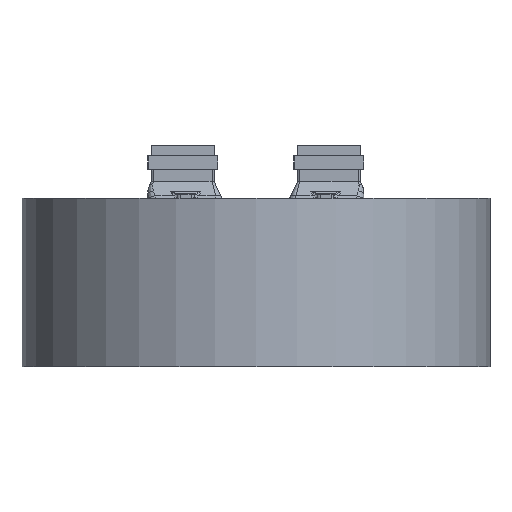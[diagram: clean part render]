
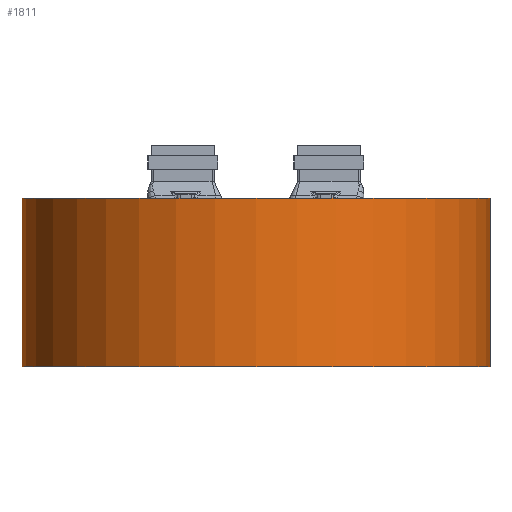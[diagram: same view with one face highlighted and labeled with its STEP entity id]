
A CAD part, front view. The second image highlights one B-rep face of the part: STEP entity #1811.
In plain terms, the highlighted cylindrical face has radius 97 mm (diameter 194 mm), a partial arc.
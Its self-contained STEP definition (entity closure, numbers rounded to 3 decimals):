
#151=CYLINDRICAL_SURFACE('',#12693,97.);
#492=CIRCLE('',#12675,97.);
#499=CIRCLE('',#12684,97.);
#860=LINE('',#15717,#1337);
#861=LINE('',#15719,#1338);
#1337=VECTOR('',#13425,1.);
#1338=VECTOR('',#13426,1.);
#1811=ADVANCED_FACE('',(#3015),#151,.T.);
#3015=FACE_OUTER_BOUND('',#3805,.T.);
#3805=EDGE_LOOP('',(#5745,#5746,#5747,#5748));
#5745=ORIENTED_EDGE('',*,*,#10703,.F.);
#5746=ORIENTED_EDGE('',*,*,#10664,.T.);
#5747=ORIENTED_EDGE('',*,*,#10702,.T.);
#5748=ORIENTED_EDGE('',*,*,#10705,.F.);
#9522=VERTEX_POINT('',#15545);
#9523=VERTEX_POINT('',#15546);
#9559=VERTEX_POINT('',#15718);
#9560=VERTEX_POINT('',#15720);
#10664=EDGE_CURVE('',#9522,#9523,#492,.T.);
#10702=EDGE_CURVE('',#9523,#9559,#860,.T.);
#10703=EDGE_CURVE('',#9522,#9560,#861,.T.);
#10705=EDGE_CURVE('',#9560,#9559,#499,.T.);
#12675=AXIS2_PLACEMENT_3D('',#15544,#13405,#13406);
#12684=AXIS2_PLACEMENT_3D('',#15723,#13431,#13432);
#12693=AXIS2_PLACEMENT_3D('',#15961,#13466,#13467);
#13405=DIRECTION('',(0.,0.,1.));
#13406=DIRECTION('',(-1.,0.,0.));
#13425=DIRECTION('',(0.,0.,1.));
#13426=DIRECTION('',(0.,0.,1.));
#13431=DIRECTION('',(0.,0.,1.));
#13432=DIRECTION('',(-1.,0.,0.));
#13466=DIRECTION('',(0.,0.,1.));
#13467=DIRECTION('',(-1.,0.,0.));
#15544=CARTESIAN_POINT('',(0.,0.,-70.));
#15545=CARTESIAN_POINT('',(-97.,0.,-70.));
#15546=CARTESIAN_POINT('',(97.,0.,-70.));
#15717=CARTESIAN_POINT('',(97.,0.,0.));
#15718=CARTESIAN_POINT('',(97.,0.,0.));
#15719=CARTESIAN_POINT('',(-97.,0.,0.));
#15720=CARTESIAN_POINT('',(-97.,0.,0.));
#15723=CARTESIAN_POINT('',(0.,0.,0.));
#15961=CARTESIAN_POINT('',(0.,0.,0.));
